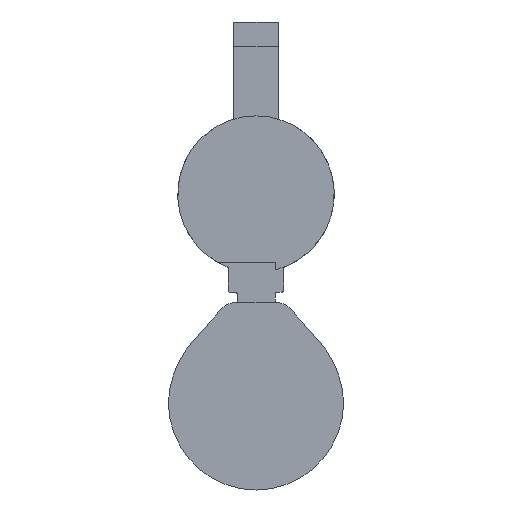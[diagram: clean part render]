
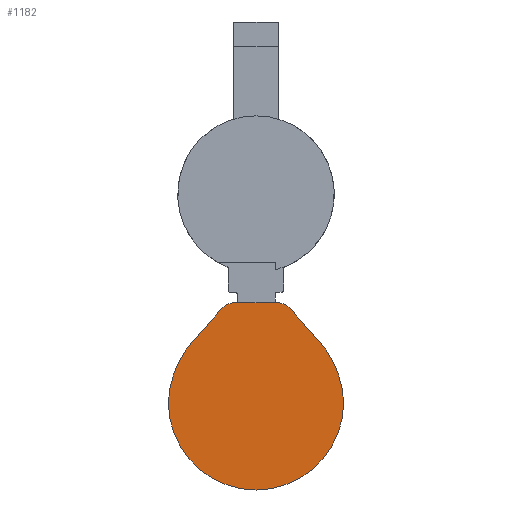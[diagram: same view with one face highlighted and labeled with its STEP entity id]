
A CAD part, front view. The second image highlights one B-rep face of the part: STEP entity #1182.
In plain terms, the highlighted planar face has unit normal (0, -1, 0).
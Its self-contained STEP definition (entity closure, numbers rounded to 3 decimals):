
#10 = DIRECTION ( 'NONE',  ( 0., 0., 1. ) ) ;
#13 = CARTESIAN_POINT ( 'NONE',  ( 21.47, 0., 0. ) ) ;
#200 = FACE_OUTER_BOUND ( 'NONE', #1083, .T. ) ;
#275 = CARTESIAN_POINT ( 'NONE',  ( 15.091, 0., 15.491 ) ) ;
#319 = ORIENTED_EDGE ( 'NONE', *, *, #1848, .T. ) ;
#345 = CARTESIAN_POINT ( 'NONE',  ( -21.47, 0., 0.008 ) ) ;
#367 = ORIENTED_EDGE ( 'NONE', *, *, #1786, .T. ) ;
#397 = VERTEX_POINT ( 'NONE', #937 ) ;
#425 = ORIENTED_EDGE ( 'NONE', *, *, #1939, .F. ) ;
#481 = ORIENTED_EDGE ( 'NONE', *, *, #1869, .F. ) ;
#492 = VECTOR ( 'NONE', #3369, 1000. ) ;
#577 = ORIENTED_EDGE ( 'NONE', *, *, #2027, .T. ) ;
#583 = LINE ( 'NONE', #2715, #492 ) ;
#621 = CARTESIAN_POINT ( 'NONE',  ( 21.47, 0., 0.008 ) ) ;
#635 = VECTOR ( 'NONE', #1005, 1000. ) ;
#641 = VERTEX_POINT ( 'NONE', #275 ) ;
#709 = VERTEX_POINT ( 'NONE', #13 ) ;
#791 = DIRECTION ( 'NONE',  ( 1., 0., 0. ) ) ;
#828 = EDGE_CURVE ( 'NONE', #3162, #3043, #947, .T. ) ;
#850 = CARTESIAN_POINT ( 'NONE',  ( -21.47, 0., 0. ) ) ;
#881 = AXIS2_PLACEMENT_3D ( 'NONE', #3377, #1552, #3205 ) ;
#886 = AXIS2_PLACEMENT_3D ( 'NONE', #2077, #2454, #2693 ) ;
#919 = ORIENTED_EDGE ( 'NONE', *, *, #1809, .F. ) ;
#937 = CARTESIAN_POINT ( 'NONE',  ( 5.394, 0., 24.4 ) ) ;
#947 = CIRCLE ( 'NONE', #1904, 21.47 ) ;
#969 = AXIS2_PLACEMENT_3D ( 'NONE', #3009, #3183, #1289 ) ;
#973 = CARTESIAN_POINT ( 'NONE',  ( -15.091, 0., 15.491 ) ) ;
#1005 = DIRECTION ( 'NONE',  ( -0.668, 0., -0.744 ) ) ;
#1012 = AXIS2_PLACEMENT_3D ( 'NONE', #2352, #3452, #10 ) ;
#1059 = AXIS2_PLACEMENT_3D ( 'NONE', #1632, #2129, #1833 ) ;
#1083 = EDGE_LOOP ( 'NONE', ( #3288, #577, #1986, #1108, #3138, #425, #481, #319, #919, #367, #1246 ) ) ;
#1108 = ORIENTED_EDGE ( 'NONE', *, *, #1985, .F. ) ;
#1182 = ADVANCED_FACE ( 'NONE', ( #200 ), #1637, .F. ) ;
#1220 = CARTESIAN_POINT ( 'NONE',  ( 0., 0., 0. ) ) ;
#1246 = ORIENTED_EDGE ( 'NONE', *, *, #828, .F. ) ;
#1289 = DIRECTION ( 'NONE',  ( 0., 0., 1. ) ) ;
#1335 = LINE ( 'NONE', #2668, #3403 ) ;
#1377 = CARTESIAN_POINT ( 'NONE',  ( 0., 0., 0. ) ) ;
#1505 = DIRECTION ( 'NONE',  ( 0., 0., 1. ) ) ;
#1538 = VECTOR ( 'NONE', #2411, 1000. ) ;
#1551 = VERTEX_POINT ( 'NONE', #1900 ) ;
#1552 = DIRECTION ( 'NONE',  ( 0., 1., 0. ) ) ;
#1554 = AXIS2_PLACEMENT_3D ( 'NONE', #1377, #3278, #3538 ) ;
#1632 = CARTESIAN_POINT ( 'NONE',  ( 0., 0., 0. ) ) ;
#1637 = PLANE ( 'NONE',  #1554 ) ;
#1746 = EDGE_CURVE ( 'NONE', #709, #3162, #2831, .T. ) ;
#1786 = EDGE_CURVE ( 'NONE', #2475, #3043, #1335, .T. ) ;
#1809 = EDGE_CURVE ( 'NONE', #2475, #2238, #2472, .T. ) ;
#1811 = CARTESIAN_POINT ( 'NONE',  ( -5.394, 0., 24.4 ) ) ;
#1833 = DIRECTION ( 'NONE',  ( 0., 0., 1. ) ) ;
#1848 = EDGE_CURVE ( 'NONE', #2865, #2238, #3528, .T. ) ;
#1869 = EDGE_CURVE ( 'NONE', #2865, #1551, #2874, .T. ) ;
#1900 = CARTESIAN_POINT ( 'NONE',  ( -5.394, 0., 24.4 ) ) ;
#1904 = AXIS2_PLACEMENT_3D ( 'NONE', #1220, #3149, #1505 ) ;
#1939 = EDGE_CURVE ( 'NONE', #1551, #397, #3444, .T. ) ;
#1980 = EDGE_CURVE ( 'NONE', #397, #2653, #3398, .T. ) ;
#1985 = EDGE_CURVE ( 'NONE', #2653, #641, #583, .T. ) ;
#1986 = ORIENTED_EDGE ( 'NONE', *, *, #2000, .F. ) ;
#2000 = EDGE_CURVE ( 'NONE', #641, #2599, #3314, .T. ) ;
#2027 = EDGE_CURVE ( 'NONE', #709, #2599, #2553, .T. ) ;
#2077 = CARTESIAN_POINT ( 'NONE',  ( -2.713, 0., -0.9 ) ) ;
#2129 = DIRECTION ( 'NONE',  ( 0., 1., 0. ) ) ;
#2238 = VERTEX_POINT ( 'NONE', #973 ) ;
#2352 = CARTESIAN_POINT ( 'NONE',  ( 2.713, 0., -0.9 ) ) ;
#2379 = CARTESIAN_POINT ( 'NONE',  ( -8.221, 0., 23.139 ) ) ;
#2411 = DIRECTION ( 'NONE',  ( -0.019, 0., 1. ) ) ;
#2422 = CARTESIAN_POINT ( 'NONE',  ( 0., 0., -21.47 ) ) ;
#2454 = DIRECTION ( 'NONE',  ( 0., 1., 0. ) ) ;
#2472 = CIRCLE ( 'NONE', #1012, 24.2 ) ;
#2475 = VERTEX_POINT ( 'NONE', #345 ) ;
#2553 = LINE ( 'NONE', #2840, #1538 ) ;
#2599 = VERTEX_POINT ( 'NONE', #621 ) ;
#2653 = VERTEX_POINT ( 'NONE', #3137 ) ;
#2668 = CARTESIAN_POINT ( 'NONE',  ( -21.47, 0., 0.008 ) ) ;
#2693 = DIRECTION ( 'NONE',  ( 0., 0., 1. ) ) ;
#2699 = VECTOR ( 'NONE', #791, 1000. ) ;
#2715 = CARTESIAN_POINT ( 'NONE',  ( 8.221, 0., 23.139 ) ) ;
#2831 = CIRCLE ( 'NONE', #1059, 21.47 ) ;
#2840 = CARTESIAN_POINT ( 'NONE',  ( 21.47, 0., 0. ) ) ;
#2865 = VERTEX_POINT ( 'NONE', #2997 ) ;
#2874 = CIRCLE ( 'NONE', #969, 3.8 ) ;
#2997 = CARTESIAN_POINT ( 'NONE',  ( -8.221, 0., 23.139 ) ) ;
#3009 = CARTESIAN_POINT ( 'NONE',  ( -5.394, 0., 20.6 ) ) ;
#3043 = VERTEX_POINT ( 'NONE', #850 ) ;
#3137 = CARTESIAN_POINT ( 'NONE',  ( 8.221, 0., 23.139 ) ) ;
#3138 = ORIENTED_EDGE ( 'NONE', *, *, #1980, .F. ) ;
#3149 = DIRECTION ( 'NONE',  ( 0., 1., 0. ) ) ;
#3162 = VERTEX_POINT ( 'NONE', #2422 ) ;
#3183 = DIRECTION ( 'NONE',  ( 0., 1., 0. ) ) ;
#3205 = DIRECTION ( 'NONE',  ( 0., 0., 1. ) ) ;
#3278 = DIRECTION ( 'NONE',  ( 0., 1., 0. ) ) ;
#3288 = ORIENTED_EDGE ( 'NONE', *, *, #1746, .F. ) ;
#3314 = CIRCLE ( 'NONE', #886, 24.2 ) ;
#3369 = DIRECTION ( 'NONE',  ( 0.668, 0., -0.744 ) ) ;
#3377 = CARTESIAN_POINT ( 'NONE',  ( 5.394, 0., 20.6 ) ) ;
#3398 = CIRCLE ( 'NONE', #881, 3.8 ) ;
#3403 = VECTOR ( 'NONE', #3475, 1000. ) ;
#3444 = LINE ( 'NONE', #1811, #2699 ) ;
#3452 = DIRECTION ( 'NONE',  ( 0., 1., 0. ) ) ;
#3475 = DIRECTION ( 'NONE',  ( -0.019, 0., -1. ) ) ;
#3528 = LINE ( 'NONE', #2379, #635 ) ;
#3538 = DIRECTION ( 'NONE',  ( 0., 0., 1. ) ) ;
